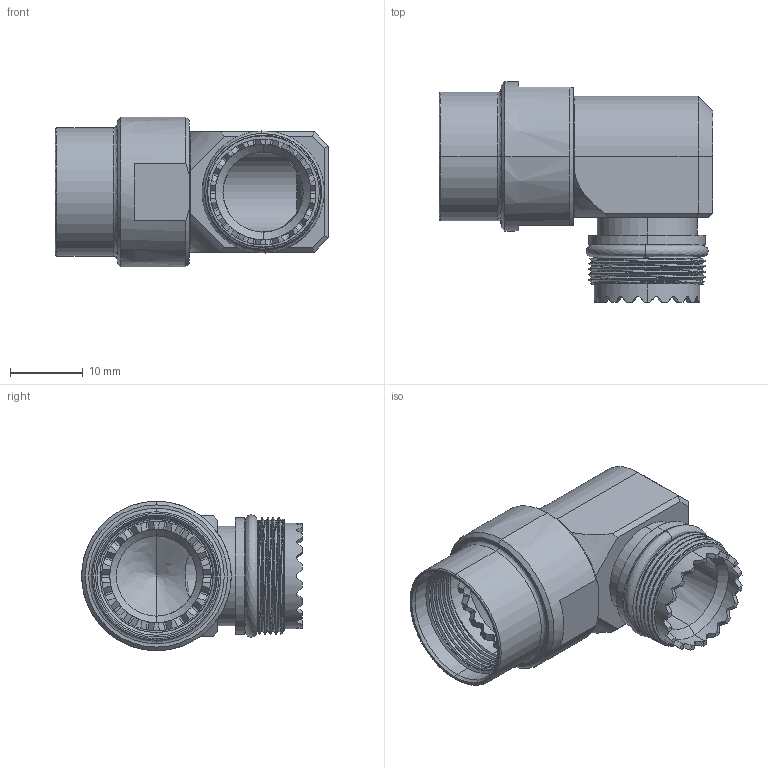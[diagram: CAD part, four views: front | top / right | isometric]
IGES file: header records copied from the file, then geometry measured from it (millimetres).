
Start section: SolidWorks IGES file using analytic representation for surfaces
Global section: file name: C:\Users\JGC\Desktop\CMA RA82.IGS; native system: SolidWorks 2017; preprocessor: SolidWorks 2017; author: jgc; date: 181217.170119; units: millimetre
Bounding box: 37.49 x 30.25 x 20.5 mm (x, y, z)
Volume: 6128.7 mm3; surface area: 5677.6 mm2
Topology: 1 solids, 1 shells, 378 faces, 1030 edges, 673 vertices
Faces by surface type: plane 219, revolution 134, bspline 25
